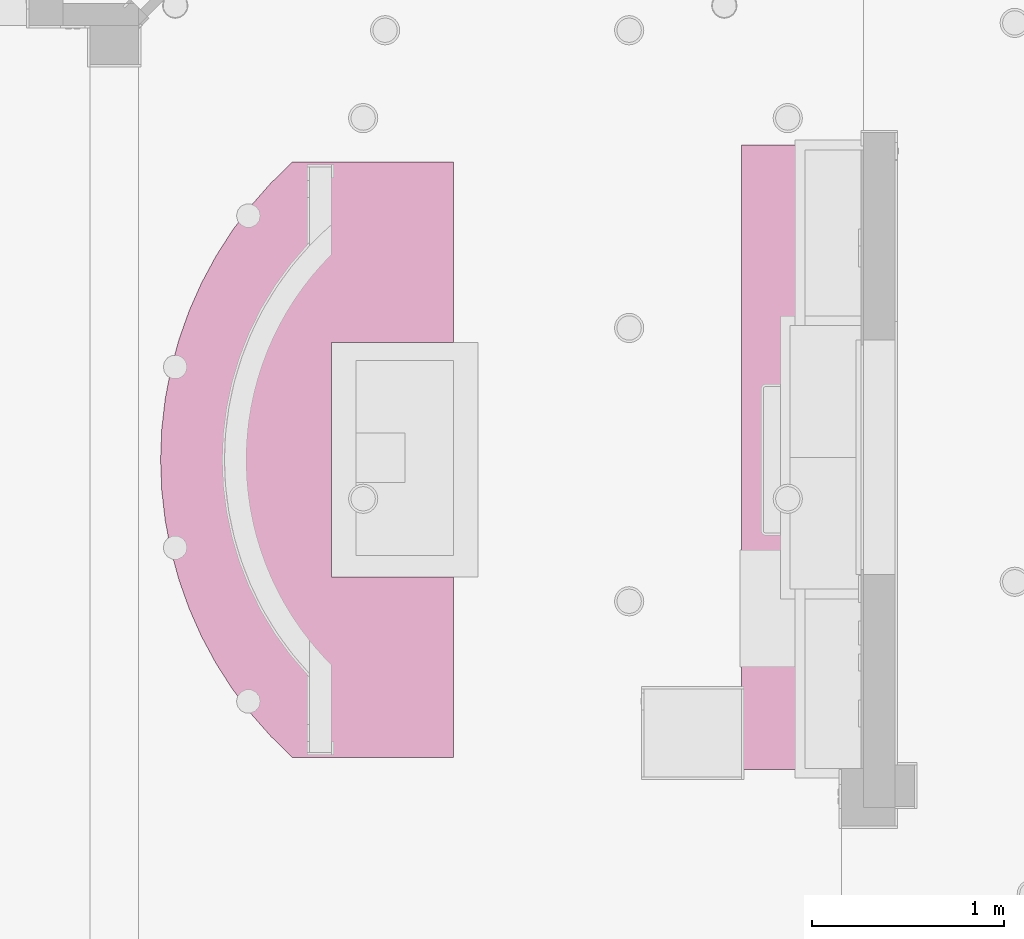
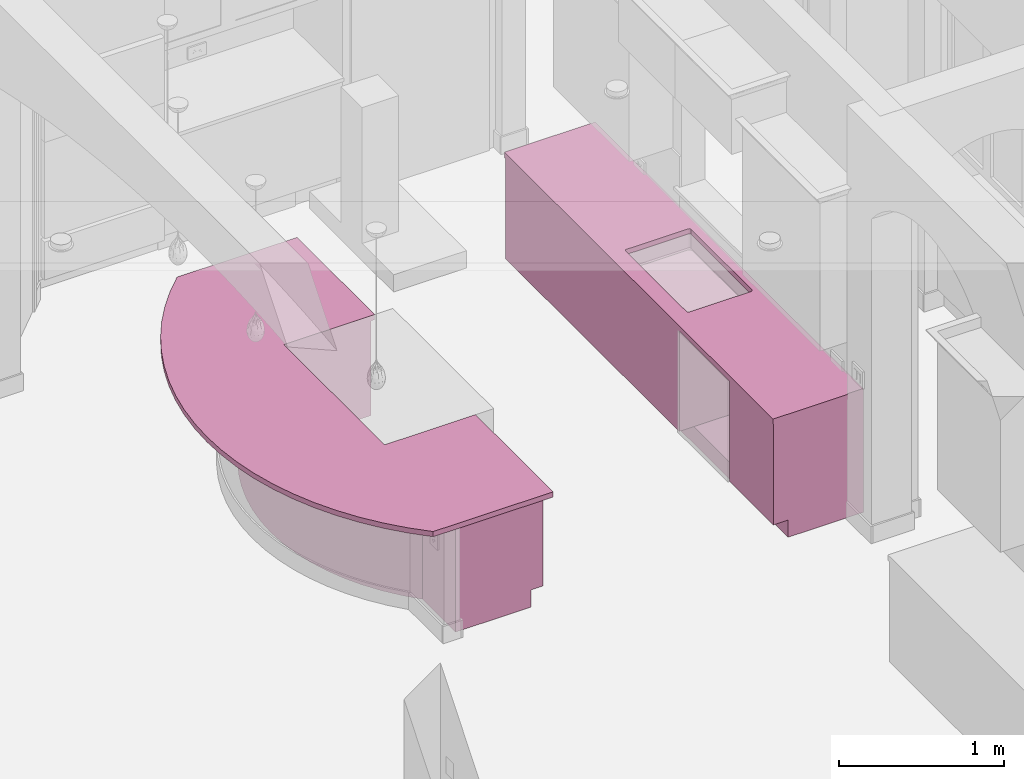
# One storey, part 57 of 81: 2 furnishings.
"""IFC2X3 building model written with IfcOpenShell, lengths in feet."""

import ifcopenshell
import ifcopenshell.guid

model = None  # the IFC model being written
_history = None  # IfcOwnerHistory: only IFC2X3 demands one
_inside = {}  # id of a spatial element -> (the spatial element, [elements in it])
_under = {}  # id of a project, library or spatial element -> (it, [spatial elements below it])
_declared = {}  # id of a project -> (the project, [libraries it declares])
_typed = {}  # id of a type object -> (the type object, [elements of that type])
_made_of = {}  # id of a material, layer set ... -> (it, [elements and type objects made of it])


def new_model(schema):
    """Start an empty IFC model of exactly this schema.

    Asked for "IFC4X3", IfcOpenShell would pick the latest addendum, in which some entities
    have other attributes; the version numbers below select the first issue.
    IFC2X3 requires an IfcOwnerHistory on every rooted entity: one is made here for all.
    """
    global model, _history
    if schema == "IFC4X3":
        model = ifcopenshell.file(schema_version=(4, 3, 0, 0))
    else:
        model = ifcopenshell.file(schema=schema)
    _inside.clear()
    _under.clear()
    _declared.clear()
    _typed.clear()
    _made_of.clear()
    _history = None
    if model.schema == "IFC2X3":
        org = make("IfcOrganization", Name="unknown")
        user = make(
            "IfcPersonAndOrganization",
            ThePerson=make("IfcPerson", FamilyName="unknown"),
            TheOrganization=org,
        )
        app = make(
            "IfcApplication",
            ApplicationDeveloper=org,
            Version="unknown",
            ApplicationFullName="unknown",
            ApplicationIdentifier="unknown",
        )
        _history = make(
            "IfcOwnerHistory",
            OwningUser=user,
            OwningApplication=app,
            ChangeAction="ADDED",
            CreationDate=0,
        )
    return model


def make(cls, **values):
    """One entity of the class cls with the attributes given. An attribute that is None is left unset."""
    return model.create_entity(
        cls, **{name: value for name, value in values.items() if value is not None}
    )


def entity(cls, *values):
    """Any entity or typed value of the class cls, its attributes in the order of the schema. None: left unset."""
    e = model.create_entity(cls)
    for i, value in enumerate(values):
        if value is not None:
            e[i] = value
    return e


def rooted(cls, **values):
    """An entity with a GlobalId (a new one), such as an element, a storey or a relation."""
    return make(cls, GlobalId=ifcopenshell.guid.new(), OwnerHistory=_history, **values)


def si_unit(unit_type, name, prefix=None):
    """IfcSIUnit, for example si_unit("LENGTHUNIT", "METRE", prefix="MILLI")."""
    return make("IfcSIUnit", UnitType=unit_type, Prefix=prefix, Name=name)


def converted_unit(unit_type, name, factor, base, dimensions=None, offset=None):
    """IfcConversionBasedUnit, such as the inch: factor (a typed value) times the base unit."""
    return make(
        "IfcConversionBasedUnit"
        if offset is None
        else "IfcConversionBasedUnitWithOffset",
        ConversionOffset=offset,
        Dimensions=None
        if dimensions is None
        else entity("IfcDimensionalExponents", *dimensions),
        UnitType=unit_type,
        Name=name,
        ConversionFactor=make(
            "IfcMeasureWithUnit", ValueComponent=factor, UnitComponent=base
        ),
    )


def derived_unit(unit_type, elements):
    """IfcDerivedUnit: a product of units, each with its exponent."""
    return make(
        "IfcDerivedUnit",
        Elements=[
            make("IfcDerivedUnitElement", Unit=unit, Exponent=power)
            for unit, power in elements
        ],
        UnitType=unit_type,
    )


def assignment(units):
    """IfcUnitAssignment: the units of a project."""
    return None if units is None else make("IfcUnitAssignment", Units=units)


def point(xyz):
    """IfcCartesianPoint."""
    return None if xyz is None else make("IfcCartesianPoint", Coordinates=xyz)


def direction(xyz):
    """IfcDirection."""
    return None if xyz is None else make("IfcDirection", DirectionRatios=xyz)


def frame(location, z_axis=None, x_axis=None):
    """IfcAxis2Placement3D, a coordinate frame: its origin and axes. An axis left out is left unset."""
    return make(
        "IfcAxis2Placement3D",
        Location=point(location),
        Axis=direction(z_axis),
        RefDirection=direction(x_axis),
    )


def origin():
    """The frame at (0, 0, 0) with its axes left unset."""
    return frame((0.0, 0.0, 0.0))


def place(relative_to, where):
    """IfcLocalPlacement: puts the frame where relative to a parent placement (None: the world)."""
    return make(
        "IfcLocalPlacement", PlacementRelTo=relative_to, RelativePlacement=where
    )


def context(
    kind, dimensions, precision=None, world=None, true_north=None, identifier=None
):
    """IfcGeometricRepresentationContext, for example the 3D "Model" context."""
    return make(
        "IfcGeometricRepresentationContext",
        ContextIdentifier=identifier,
        ContextType=kind,
        CoordinateSpaceDimension=dimensions,
        Precision=precision,
        WorldCoordinateSystem=world,
        TrueNorth=true_north,
    )


def subcontext(parent, identifier, kind, view, scale=None):
    """IfcGeometricRepresentationSubContext, for example "Body" below "Model"."""
    return make(
        "IfcGeometricRepresentationSubContext",
        ContextIdentifier=identifier,
        ContextType=kind,
        ParentContext=parent,
        TargetScale=scale,
        TargetView=view,
    )


def project(units=None, contexts=None):
    """IfcProject with its units and contexts."""
    return rooted(
        "IfcProject",
        Name="project",
        RepresentationContexts=contexts,
        UnitsInContext=assignment(units),
    )


def spatial(cls, under=None, at=None, **own):
    """A site, building, storey or space (cls), placed at a placement, below another one or the project."""
    s = rooted(cls, ObjectPlacement=at, **own)
    if under is not None:
        _under.setdefault(under.id(), (under, []))[1].append(s)
    return s


def faces_of(points, faces, orient=None, outer=None):
    """IfcFace entities. A face is a list of loops; a loop is a list of indices into points, from 0.

    orient and outer hold one flag for each loop. By default every Orientation is true, the
    first loop of a face is its IfcFaceOuterBound and the others are IfcFaceBound.
    """
    made = []
    for i, loops in enumerate(faces):
        bounds = []
        for j, loop in enumerate(loops):
            is_outer = j == 0 if outer is None else outer[i][j]
            bounds.append(
                make(
                    "IfcFaceOuterBound" if is_outer else "IfcFaceBound",
                    Bound=make("IfcPolyLoop", Polygon=[points[k] for k in loop]),
                    Orientation=True if orient is None else orient[i][j],
                )
            )
        made.append(make("IfcFace", Bounds=bounds))
    return made


def faceted_brep(points, faces, orient=None, outer=None, voids=None):
    """IfcFacetedBrep: a solid bounded by flat faces; with voids (closed shells), ...WithVoids."""
    shared = [point(p) for p in points]
    hull = make("IfcClosedShell", CfsFaces=faces_of(shared, faces, orient, outer))
    if voids is None:
        return make("IfcFacetedBrep", Outer=hull)
    return make(
        "IfcFacetedBrepWithVoids",
        Outer=hull,
        Voids=[
            make(cls, CfsFaces=faces_of(shared, fs, o, b)) for cls, fs, o, b in voids
        ],
    )


def shape(context_of_items, identifier, shape_type, items):
    """IfcShapeRepresentation: the items that make up one representation, for example the "Body"."""
    return make(
        "IfcShapeRepresentation",
        ContextOfItems=context_of_items,
        RepresentationIdentifier=identifier,
        RepresentationType=shape_type,
        Items=items,
    )


def source(mapping_origin, context_of_items, identifier, shape_type, items):
    """IfcRepresentationMap: a shape defined once, which mapped items show again and again."""
    return make(
        "IfcRepresentationMap",
        MappingOrigin=mapping_origin,
        MappedRepresentation=shape(context_of_items, identifier, shape_type, items),
    )


def transform(
    local_origin,
    x_axis=None,
    y_axis=None,
    z_axis=None,
    scale=None,
    scale2=None,
    scale3=None,
    uniform=True,
):
    """IfcCartesianTransformationOperator3D, or its non-uniform kind. x_axis, y_axis, z_axis: its Axis1, 2, 3."""
    if uniform:
        return make(
            "IfcCartesianTransformationOperator3D",
            Axis1=direction(x_axis),
            Axis2=direction(y_axis),
            LocalOrigin=point(local_origin),
            Scale=scale,
            Axis3=direction(z_axis),
        )
    return make(
        "IfcCartesianTransformationOperator3DnonUniform",
        Axis1=direction(x_axis),
        Axis2=direction(y_axis),
        LocalOrigin=point(local_origin),
        Scale=scale,
        Axis3=direction(z_axis),
        Scale2=scale2,
        Scale3=scale3,
    )


def mapped(mapping_source, mapping_target):
    """IfcMappedItem: shows the shape of a source again, moved by a transform."""
    return make(
        "IfcMappedItem", MappingSource=mapping_source, MappingTarget=mapping_target
    )


def material(Name=None, Category=None):
    """IfcMaterial."""
    return make("IfcMaterial", Name=Name, Category=Category)


def made_of(thing, what):
    """Note that an element or type object is made of a material, layer set ...; save() writes the relation."""
    if what is not None:
        _made_of.setdefault(what.id(), (what, []))[1].append(thing)
    return thing


def type_object(cls, material=None, **own):
    """A type object (cls), such as IfcWallType, which elements share."""
    return made_of(rooted(cls, **own), material)


def type_shapes(of_type, sources):
    """Give a type object the sources (RepresentationMaps) that its elements show as mapped items."""
    of_type.RepresentationMaps = sources


def element(
    cls,
    number,
    at=None,
    inside=None,
    cuts=None,
    type_object=None,
    material=None,
    context=None,
    identifier="Body",
    shape_type=None,
    held_by="IfcProductDefinitionShape",
    body=None,
    shapes=None,
    **own,
):
    """One element of the class cls, such as IfcWall. Its Tag is "e" and its number.

    at: its placement. inside: the storey or other place that contains it. cuts: it is an
    opening in that element (IfcRelVoidsElement). A single representation is given by context,
    identifier, shape_type and body (its items); several are given by shapes. held_by: the class
    of the entity that holds the representations. save() writes the other relations.
    """
    e = rooted(cls, Tag="e%d" % number, ObjectPlacement=at, **own)
    if body is not None:
        shapes = [shape(context, identifier, shape_type, body)]
    if shapes is not None:
        e.Representation = make(held_by, Representations=shapes)
    if inside is not None:
        _inside.setdefault(inside.id(), (inside, []))[1].append(e)
    if cuts is not None:
        rooted(
            "IfcRelVoidsElement", RelatingBuildingElement=cuts, RelatedOpeningElement=e
        )
    if type_object is not None:
        _typed.setdefault(type_object.id(), (type_object, []))[1].append(e)
    return made_of(e, material)


def aggregate(whole, parts):
    """IfcRelAggregates: a whole, such as a stair, and the parts it consists of."""
    return rooted("IfcRelAggregates", RelatingObject=whole, RelatedObjects=parts)


def save(model, path):
    """Write the relations noted so far, then the file.

    IfcRelAggregates (storeys below a building ...), IfcRelContainedInSpatialStructure (elements
    in a storey), IfcRelDefinesByType, IfcRelAssociatesMaterial and IfcRelDeclares: one each for
    every whole, place, type object, material and project.
    """
    for whole, parts in _under.values():
        aggregate(whole, parts)
    for where, things in _inside.values():
        rooted(
            "IfcRelContainedInSpatialStructure",
            RelatedElements=things,
            RelatingStructure=where,
        )
    for kind, things in _typed.values():
        rooted("IfcRelDefinesByType", RelatedObjects=things, RelatingType=kind)
    for what, things in _made_of.values():
        rooted("IfcRelAssociatesMaterial", RelatedObjects=things, RelatingMaterial=what)
    for by, libraries in _declared.values():
        rooted("IfcRelDeclares", RelatingContext=by, RelatedDefinitions=libraries)
    model.write(path)


model = new_model("IFC2X3")

# Units and contexts
model_context = context("Model", 3, precision=0.0001, world=origin(), true_north=direction((6.12303176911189e-17, 1.0)))
body_context = subcontext(model_context, "Body", "Model", "MODEL_VIEW")
ifc_project = project(units=[converted_unit("LENGTHUNIT", "FOOT", entity("IfcRatioMeasure", 0.3048), si_unit("LENGTHUNIT", "METRE"), dimensions=[1, 0, 0, 0, 0, 0, 0]), converted_unit("AREAUNIT", "SQUARE FOOT", entity("IfcRatioMeasure", 0.09290304), si_unit("AREAUNIT", "SQUARE_METRE"), dimensions=[2, 0, 0, 0, 0, 0, 0]), converted_unit("VOLUMEUNIT", "CUBIC FOOT", entity("IfcRatioMeasure", 0.028316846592), si_unit("VOLUMEUNIT", "CUBIC_METRE"), dimensions=[3, 0, 0, 0, 0, 0, 0]), converted_unit("PLANEANGLEUNIT", "DEGREE", entity("IfcRatioMeasure", 0.0174532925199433), si_unit("PLANEANGLEUNIT", "RADIAN"), dimensions=[0, 0, 0, 0, 0, 0, 0]), si_unit("MASSUNIT", "GRAM", prefix="KILO"), derived_unit("MASSDENSITYUNIT", [(si_unit("MASSUNIT", "GRAM", prefix="KILO"), 1), (si_unit("LENGTHUNIT", "METRE"), -3)]), derived_unit("MOMENTOFINERTIAUNIT", [(si_unit("LENGTHUNIT", "METRE"), 4)]), si_unit("TIMEUNIT", "SECOND"), si_unit("FREQUENCYUNIT", "HERTZ"), si_unit("THERMODYNAMICTEMPERATUREUNIT", "DEGREE_CELSIUS"), derived_unit("THERMALTRANSMITTANCEUNIT", [(si_unit("MASSUNIT", "GRAM", prefix="KILO"), 1), (si_unit("THERMODYNAMICTEMPERATUREUNIT", "KELVIN"), -1), (si_unit("TIMEUNIT", "SECOND"), -3)]), derived_unit("VOLUMETRICFLOWRATEUNIT", [(si_unit("LENGTHUNIT", "METRE"), 3), (si_unit("TIMEUNIT", "SECOND"), -1)]), si_unit("ELECTRICCURRENTUNIT", "AMPERE"), si_unit("ELECTRICVOLTAGEUNIT", "VOLT"), si_unit("POWERUNIT", "WATT"), si_unit("FORCEUNIT", "NEWTON"), si_unit("ILLUMINANCEUNIT", "LUX"), si_unit("LUMINOUSFLUXUNIT", "LUMEN"), si_unit("LUMINOUSINTENSITYUNIT", "CANDELA"), derived_unit("USERDEFINED", [(si_unit("MASSUNIT", "GRAM", prefix="KILO"), -1), (si_unit("LENGTHUNIT", "METRE"), -2), (si_unit("TIMEUNIT", "SECOND"), 3), (si_unit("LUMINOUSFLUXUNIT", "LUMEN"), 1)]), derived_unit("LINEARVELOCITYUNIT", [(si_unit("LENGTHUNIT", "METRE"), 1), (si_unit("TIMEUNIT", "SECOND"), -1)]), si_unit("PRESSUREUNIT", "PASCAL"), derived_unit("USERDEFINED", [(si_unit("LENGTHUNIT", "METRE"), -2), (si_unit("MASSUNIT", "GRAM", prefix="KILO"), 1), (si_unit("TIMEUNIT", "SECOND"), -2)]), derived_unit("LINEARFORCEUNIT", [(si_unit("MASSUNIT", "GRAM", prefix="KILO"), 1), (si_unit("LENGTHUNIT", "METRE"), 1), (si_unit("TIMEUNIT", "SECOND"), -2), (si_unit("LENGTHUNIT", "METRE"), -1)]), derived_unit("PLANARFORCEUNIT", [(si_unit("MASSUNIT", "GRAM", prefix="KILO"), 1), (si_unit("LENGTHUNIT", "METRE"), 1), (si_unit("TIMEUNIT", "SECOND"), -2), (si_unit("LENGTHUNIT", "METRE"), -2)])], contexts=[model_context])

# Site, building, storey
site_placement = place(None, origin())
site = spatial("IfcSite", under=ifc_project, at=site_placement, Name="Default", CompositionType="ELEMENT")
building_placement = place(site_placement, origin())
building = spatial("IfcBuilding", under=site, at=building_placement, CompositionType="ELEMENT")
storey_placement = place(building_placement, origin())
storey = spatial("IfcBuildingStorey", under=building, at=storey_placement, Name="First floor", CompositionType="ELEMENT", Elevation=0.0)

# Furnishings
ifc_material = material(Name="Default New Material")
furniture_type_1 = type_object("IfcFurnitureType", Name="Casework 5:Casework 3", material=ifc_material)
shared_shape_1 = source(origin(), body_context, "Body", "Brep", [
    faceted_brep([(2.25557677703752, 0.0052338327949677, 2.83333333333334), (5.00557677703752, 0.0052338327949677, 2.83333333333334), (5.00557677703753, 3.0885671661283, 2.83333333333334), (2.9222434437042, 3.0885671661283, 2.83333333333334), (2.9222434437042, 7.08856716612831, 2.83333333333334), (5.00557677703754, 7.08856716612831, 2.83333333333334), (5.00557677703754, 10.1719004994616, 2.83333333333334), (2.25557677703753, 10.1719004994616, 2.83333333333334), (1.88400552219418, 9.80785634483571, 2.83333333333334), (1.54105929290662, 9.4167281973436, 2.83333333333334), (1.22870625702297, 9.00076074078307, 2.83333333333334), (0.948739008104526, 8.56234121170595, 2.83333333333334), (0.702764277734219, 8.10398569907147, 2.83333333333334), (0.492193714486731, 7.62832470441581, 2.83333333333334), (0.318235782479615, 7.13808804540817, 2.83333333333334), (0.181888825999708, 6.63608918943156, 2.83333333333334), (0.0839353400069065, 6.12520910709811, 2.83333333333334), (0.0249374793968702, 5.60837973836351, 2.83333333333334), (0.00523383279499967, 5.08856716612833, 2.83333333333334), (0.0249374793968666, 4.56875459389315, 2.83333333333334), (0.0839353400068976, 4.05192522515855, 2.83333333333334), (0.181888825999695, 3.5410451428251, 2.83333333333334), (0.318235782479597, 3.03904628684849, 2.83333333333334), (0.49219371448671, 2.54880962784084, 2.83333333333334), (0.702764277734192, 2.07314863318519, 2.83333333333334), (0.948739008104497, 1.6147931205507, 2.83333333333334), (1.22870625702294, 1.17637359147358, 2.83333333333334), (1.54105929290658, 0.760406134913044, 2.83333333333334), (1.88400552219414, 0.369277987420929, 2.83333333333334), (2.25557677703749, 10.1719004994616, 2.70833333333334), (5.00557677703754, 10.1719004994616, 2.70833333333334), (5.00557677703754, 7.08856716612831, 2.70833333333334), (2.9222434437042, 7.08856716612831, 2.70833333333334), (2.9222434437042, 3.0885671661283, 2.70833333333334), (5.00557677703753, 3.0885671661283, 2.70833333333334), (5.00557677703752, 0.0052338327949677, 2.70833333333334), (2.25557677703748, 0.00523383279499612, 2.70833333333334), (1.88400552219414, 0.369277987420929, 2.70833333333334), (1.54105929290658, 0.760406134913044, 2.70833333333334), (1.22870625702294, 1.17637359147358, 2.70833333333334), (0.948739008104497, 1.6147931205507, 2.70833333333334), (0.702764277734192, 2.07314863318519, 2.70833333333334), (0.49219371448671, 2.54880962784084, 2.70833333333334), (0.318235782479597, 3.03904628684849, 2.70833333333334), (0.181888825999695, 3.5410451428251, 2.70833333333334), (0.0839353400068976, 4.05192522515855, 2.70833333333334), (0.0249374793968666, 4.56875459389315, 2.70833333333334), (0.00523383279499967, 5.08856716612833, 2.70833333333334), (0.0249374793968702, 5.60837973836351, 2.70833333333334), (0.0839353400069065, 6.12520910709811, 2.70833333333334), (0.181888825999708, 6.63608918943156, 2.70833333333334), (0.318235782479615, 7.13808804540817, 2.70833333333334), (0.492193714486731, 7.62832470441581, 2.70833333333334), (0.702764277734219, 8.10398569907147, 2.70833333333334), (0.948739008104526, 8.56234121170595, 2.70833333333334), (1.22870625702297, 9.00076074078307, 2.70833333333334), (1.54105929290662, 9.4167281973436, 2.70833333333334), (1.88400552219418, 9.80785634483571, 2.70833333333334)], [[[0, 1, 2, 3, 4, 5, 6, 7, 8, 9, 10, 11, 12, 13, 14, 15, 16, 17, 18, 19, 20, 21, 22, 23, 24, 25, 26, 27, 28]], [[29, 30, 31, 32, 33, 34, 35, 36, 37, 38, 39, 40, 41, 42, 43, 44, 45, 46, 47, 48, 49, 50, 51, 52, 53, 54, 55, 56, 57]], [[2, 1, 35, 34]], [[6, 5, 31, 30]], [[3, 2, 34, 33]], [[4, 3, 33, 32]], [[5, 4, 32, 31]], [[7, 6, 30, 29]], [[10, 55, 54, 11]], [[8, 57, 56, 9]], [[55, 10, 9, 56]], [[11, 54, 53, 12]], [[15, 50, 49, 16]], [[16, 49, 48, 17]], [[13, 52, 51, 14]], [[14, 51, 50, 15]], [[52, 13, 12, 53]], [[17, 48, 47, 18]], [[57, 8, 7, 29]], [[21, 44, 43, 22]], [[19, 46, 45, 20]], [[44, 21, 20, 45]], [[22, 43, 42, 23]], [[26, 39, 38, 27]], [[27, 38, 37, 28]], [[24, 41, 40, 25]], [[25, 40, 39, 26]], [[41, 24, 23, 42]], [[28, 37, 36, 0]], [[46, 19, 18, 47]], [[1, 0, 36, 35]]]),
    faceted_brep([(4.9222434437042, 0.2760671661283, 0.41666666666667), (4.65141011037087, 0.2760671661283, 0.41666666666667), (4.65141011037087, 3.0885671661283, 0.41666666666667), (4.9222434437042, 3.0885671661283, 0.41666666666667), (4.9222434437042, 7.08856716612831, 0.41666666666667), (4.65141011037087, 7.08856716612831, 0.41666666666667), (4.65141011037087, 9.90106716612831, 0.41666666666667), (4.9222434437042, 9.90106716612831, 0.41666666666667), (4.65141011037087, 0.2760671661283, 0.0), (4.65141011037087, 3.0885671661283, 0.0), (4.65141011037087, 7.08856716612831, 0.0), (4.65141011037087, 9.90106716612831, 0.0), (3.00557677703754, 3.03648383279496, 0.468750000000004), (3.00557677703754, 3.03648383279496, 1.03993055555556), (3.00557677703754, 0.390650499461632, 1.03993055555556), (3.00557677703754, 0.390650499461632, 0.468750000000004), (3.00557677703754, 9.78648383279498, 0.468750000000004), (3.00557677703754, 9.78648383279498, 1.03993055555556), (3.00557677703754, 7.14065049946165, 1.03993055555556), (3.00557677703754, 7.14065049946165, 0.468750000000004), (3.00557677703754, 3.03648383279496, 1.09201388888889), (3.00557677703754, 3.03648383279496, 1.68923611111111), (3.00557677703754, 0.390650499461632, 1.68923611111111), (3.00557677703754, 0.390650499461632, 1.09201388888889), (3.00557677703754, 9.78648383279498, 1.09201388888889), (3.00557677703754, 9.78648383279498, 1.68923611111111), (3.00557677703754, 7.14065049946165, 1.68923611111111), (3.00557677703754, 7.14065049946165, 1.09201388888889), (3.00557677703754, 3.03648383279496, 1.74131944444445), (3.00557677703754, 3.03648383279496, 2.33854166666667), (3.00557677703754, 0.390650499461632, 2.33854166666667), (3.00557677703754, 0.390650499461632, 1.74131944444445), (3.00557677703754, 9.78648383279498, 1.74131944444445), (3.00557677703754, 9.78648383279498, 2.33854166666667), (3.00557677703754, 7.14065049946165, 2.33854166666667), (3.00557677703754, 7.14065049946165, 1.74131944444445), (4.9222434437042, 0.2760671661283, 2.70833333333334), (4.9222434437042, 3.0885671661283, 2.70833333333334), (2.9222434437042, 3.0885671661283, 2.70833333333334), (2.9222434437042, 7.08856716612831, 2.70833333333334), (4.9222434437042, 7.08856716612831, 2.70833333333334), (4.9222434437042, 9.90106716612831, 2.70833333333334), (2.92224344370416, 9.90106716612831, 2.70833333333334), (2.92224344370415, 8.58856716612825, 2.70833333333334), (2.63027916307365, 8.27032162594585, 2.70833333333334), (2.36718661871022, 7.92782246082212, 2.70833333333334), (2.1349712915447, 7.5636804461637, 2.70833333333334), (1.93540329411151, 7.18067133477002, 2.70833333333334), (1.77000387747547, 6.78171469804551, 2.70833333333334), (1.64003383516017, 6.36985167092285, 2.70833333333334), (1.54648389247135, 5.94822177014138, 2.70833333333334), (1.49006715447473, 5.52003896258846, 2.70833333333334), (1.4712136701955, 5.08856716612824, 2.70833333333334), (1.49006715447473, 4.65709536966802, 2.70833333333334), (1.54648389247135, 4.2289125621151, 2.70833333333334), (1.64003383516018, 3.80728266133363, 2.70833333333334), (1.77000387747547, 3.39541963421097, 2.70833333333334), (1.93540329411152, 2.99646299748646, 2.70833333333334), (2.13497129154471, 2.61345388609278, 2.70833333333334), (2.36718661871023, 2.24931187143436, 2.70833333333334), (2.63027916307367, 1.90681270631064, 2.70833333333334), (2.92224344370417, 1.58856716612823, 2.70833333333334), (2.92224344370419, 0.2760671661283, 2.70833333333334), (2.9222434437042, 7.08856716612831, 0.0), (2.9222434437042, 3.0885671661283, 0.0), (2.92224344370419, 0.2760671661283, 0.0), (2.92224344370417, 1.58856716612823, 0.0), (2.63027916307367, 1.90681270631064, 0.0), (2.36718661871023, 2.24931187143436, 0.0), (2.13497129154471, 2.61345388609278, 0.0), (1.93540329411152, 2.99646299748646, 0.0), (1.77000387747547, 3.39541963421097, 0.0), (1.64003383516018, 3.80728266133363, 0.0), (1.54648389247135, 4.2289125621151, 0.0), (1.49006715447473, 4.65709536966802, 0.0), (1.4712136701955, 5.08856716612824, 0.0), (1.49006715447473, 5.52003896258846, 0.0), (1.54648389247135, 5.94822177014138, 0.0), (1.64003383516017, 6.36985167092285, 0.0), (1.77000387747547, 6.78171469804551, 0.0), (1.93540329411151, 7.18067133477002, 0.0), (2.1349712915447, 7.5636804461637, 0.0), (2.36718661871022, 7.92782246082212, 0.0), (2.63027916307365, 8.27032162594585, 0.0), (2.92224344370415, 8.58856716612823, 0.0), (2.92224344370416, 9.90106716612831, 0.0), (4.9222434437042, 0.390650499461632, 2.33854166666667), (4.9222434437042, 0.390650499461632, 1.74131944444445), (4.9222434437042, 0.390650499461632, 1.68923611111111), (4.9222434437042, 0.390650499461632, 1.09201388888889), (4.9222434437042, 0.390650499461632, 1.03993055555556), (4.9222434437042, 0.390650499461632, 0.468750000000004), (4.9222434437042, 3.03648383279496, 1.68923611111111), (4.9222434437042, 3.03648383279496, 0.468750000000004), (4.9222434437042, 3.03648383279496, 1.03993055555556), (4.9222434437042, 3.03648383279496, 1.09201388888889), (4.9222434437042, 3.03648383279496, 1.74131944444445), (4.9222434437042, 3.03648383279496, 2.33854166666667), (4.9222434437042, 7.14065049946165, 2.33854166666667), (4.9222434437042, 9.78648383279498, 2.33854166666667), (4.9222434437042, 7.14065049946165, 1.74131944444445), (4.9222434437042, 7.14065049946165, 1.68923611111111), (4.9222434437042, 7.14065049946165, 1.09201388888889), (4.9222434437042, 7.14065049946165, 1.03993055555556), (4.9222434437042, 7.14065049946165, 0.468750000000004), (4.9222434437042, 9.78648383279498, 0.468750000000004), (4.9222434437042, 9.78648383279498, 1.68923611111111), (4.9222434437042, 9.78648383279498, 1.03993055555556), (4.9222434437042, 9.78648383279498, 1.09201388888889), (4.9222434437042, 9.78648383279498, 1.74131944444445)], [[[0, 1, 2, 3]], [[4, 5, 6, 7]], [[1, 8, 9, 2]], [[10, 11, 6, 5]], [[12, 13, 14, 15]], [[16, 17, 18, 19]], [[20, 21, 22, 23]], [[24, 25, 26, 27]], [[28, 29, 30, 31]], [[32, 33, 34, 35]], [[36, 37, 38, 39, 40, 41, 42, 43, 44, 45, 46, 47, 48, 49, 50, 51, 52, 53, 54, 55, 56, 57, 58, 59, 60, 61, 62]], [[11, 10, 63, 64, 9, 8, 65, 66, 67, 68, 69, 70, 71, 72, 73, 74, 75, 76, 77, 78, 79, 80, 81, 82, 83, 84, 85]], [[36, 86, 37]], [[86, 36, 87]], [[88, 87, 36]], [[36, 0, 88]], [[89, 88, 0]], [[90, 89, 0]], [[0, 91, 90]], [[91, 0, 3]], [[37, 92, 3]], [[3, 93, 91]], [[93, 3, 94]], [[95, 94, 3]], [[95, 3, 92]], [[96, 92, 37]], [[92, 96, 88]], [[94, 95, 89]], [[89, 90, 94]], [[87, 88, 96]], [[37, 97, 96]], [[97, 37, 86]], [[36, 86, 37]], [[86, 36, 87]], [[88, 87, 36]], [[36, 0, 88]], [[89, 88, 0]], [[90, 89, 0]], [[0, 91, 90]], [[91, 0, 3]], [[37, 92, 3]], [[3, 93, 91]], [[93, 3, 94]], [[95, 94, 3]], [[95, 3, 92]], [[96, 92, 37]], [[92, 96, 88]], [[94, 95, 89]], [[89, 90, 94]], [[87, 88, 96]], [[37, 97, 96]], [[97, 37, 86]], [[40, 98, 99]], [[98, 40, 100]], [[101, 100, 40]], [[40, 4, 101]], [[99, 41, 40]], [[102, 101, 4]], [[103, 102, 4]], [[4, 104, 103]], [[104, 4, 105]], [[7, 105, 4]], [[41, 106, 7]], [[105, 7, 107]], [[108, 107, 7]], [[108, 7, 106]], [[100, 101, 106]], [[109, 106, 41]], [[106, 109, 100]], [[102, 103, 108]], [[107, 108, 103]], [[41, 99, 109]], [[38, 37, 3, 2, 9, 64]], [[39, 38, 64, 63]], [[40, 39, 63, 10, 5, 4]], [[42, 41, 7, 6, 11, 85]], [[43, 42, 85, 84]], [[62, 61, 66, 65]], [[45, 44, 83, 82]], [[44, 43, 84, 83]], [[46, 45, 82, 81]], [[78, 77, 50, 49]], [[48, 47, 80, 79]], [[49, 48, 79, 78]], [[81, 80, 47, 46]], [[51, 50, 77, 76]], [[52, 51, 76, 75]], [[55, 54, 73, 72]], [[54, 53, 74, 73]], [[56, 55, 72, 71]], [[68, 67, 60, 59]], [[58, 57, 70, 69]], [[59, 58, 69, 68]], [[71, 70, 57, 56]], [[61, 60, 67, 66]], [[53, 52, 75, 74]], [[36, 62, 65, 8, 1, 0]], [[107, 17, 16, 105]], [[106, 25, 24, 108]], [[99, 33, 32, 109]], [[105, 16, 19, 104]], [[93, 12, 15, 91]], [[104, 19, 18, 103]], [[102, 27, 26, 101]], [[100, 35, 34, 98]], [[103, 18, 17, 107]], [[90, 14, 13, 94]], [[108, 24, 27, 102]], [[95, 20, 23, 89]], [[101, 26, 25, 106]], [[88, 22, 21, 92]], [[98, 34, 33, 99]], [[86, 30, 29, 97]], [[109, 32, 35, 100]], [[96, 28, 31, 87]], [[94, 13, 12, 93]], [[92, 21, 20, 95]], [[97, 29, 28, 96]], [[91, 15, 14, 90]], [[89, 23, 22, 88]], [[87, 31, 30, 86]]]),
])
type_shapes(furniture_type_1, [shared_shape_1])
furnishing_1_placement = place(storey_placement, frame((0.911089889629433, 16.5364328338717, 10.6666666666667)))
element("IfcFurnishingElement", 1, at=furnishing_1_placement, inside=storey, type_object=furniture_type_1, material=ifc_material, Name="Casework 5:Casework 3", ObjectType="Casework 5:Casework 3", context=body_context, shape_type="MappedRepresentation", body=[
    mapped(shared_shape_1, transform((0.0, 0.0, 0.0), scale=1.0)),
])
furniture_type_2 = type_object("IfcFurnitureType", Name="Casework 6:Casework 6", material=ifc_material)
shared_shape_2 = source(origin(), body_context, "Body", "Brep", [
    faceted_brep([(2.08333333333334, 10.6666666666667, 3.0), (1.86941772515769, 6.52083333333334, 3.0), (1.87358024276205, 6.51078412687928, 3.0), (1.86279611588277, 6.52946278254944, 3.0), (1.875, 6.5, 3.0), (2.08333333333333, 0.0208333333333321, 3.0), (1.85416666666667, 6.53608439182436, 3.0), (1.84411746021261, 6.54024690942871, 3.0), (1.83333333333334, 6.54166666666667, 3.0), (0.416666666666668, 6.54166666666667, 3.0), (0.0, 10.6666666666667, 3.0), (0.405882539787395, 6.54024690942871, 3.0), (0.395833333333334, 6.53608439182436, 3.0), (0.387203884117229, 6.52946278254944, 3.0), (0.380582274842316, 6.52083333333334, 3.0), (0.376419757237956, 6.51078412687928, 3.0), (0.375000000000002, 6.5, 3.0), (0.0, 0.0, 3.0), (0.375000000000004, 4.08333333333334, 3.0), (0.376419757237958, 4.07254920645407, 3.0), (0.380582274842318, 4.06250000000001, 3.0), (0.387203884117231, 4.0538705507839, 3.0), (0.395833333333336, 4.04724894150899, 3.0), (0.405882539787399, 4.04308642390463, 3.0), (0.41666666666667, 4.04166666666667, 3.0), (1.70833333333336, 0.0208333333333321, 3.0), (1.70833333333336, 0.0, 3.0), (1.83333333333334, 4.04166666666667, 3.0), (1.875, 4.08333333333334, 3.0), (1.87358024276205, 4.07254920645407, 3.0), (1.86941772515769, 4.06250000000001, 3.0), (1.86279611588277, 4.0538705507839, 3.0), (1.85416666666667, 4.04724894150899, 3.0), (1.84411746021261, 4.04308642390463, 3.0), (0.0, 10.6666666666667, 2.875), (0.380582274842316, 6.52083333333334, 2.875), (0.376419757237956, 6.51078412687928, 2.875), (0.387203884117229, 6.52946278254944, 2.875), (0.375000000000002, 6.5, 2.875), (0.0, 0.0, 2.875), (0.395833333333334, 6.53608439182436, 2.875), (0.405882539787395, 6.54024690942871, 2.875), (0.416666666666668, 6.54166666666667, 2.875), (2.08333333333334, 10.6666666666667, 2.875), (1.83333333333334, 6.54166666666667, 2.875), (1.84411746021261, 6.54024690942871, 2.875), (1.85416666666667, 6.53608439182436, 2.875), (1.86279611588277, 6.52946278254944, 2.875), (1.86941772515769, 6.52083333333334, 2.875), (1.87358024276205, 6.51078412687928, 2.875), (1.875, 6.5, 2.875), (2.08333333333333, 0.0208333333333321, 2.875), (1.875, 4.08333333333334, 2.875), (1.87358024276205, 4.07254920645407, 2.875), (1.86941772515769, 4.06250000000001, 2.875), (1.86279611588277, 4.0538705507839, 2.875), (1.85416666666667, 4.04724894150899, 2.875), (1.84411746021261, 4.04308642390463, 2.875), (1.83333333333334, 4.04166666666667, 2.875), (1.70833333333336, 0.0208333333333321, 2.875), (0.41666666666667, 4.04166666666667, 2.875), (1.70833333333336, 0.0, 2.875), (0.405882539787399, 4.04308642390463, 2.875), (0.375000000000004, 4.08333333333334, 2.875), (0.376419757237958, 4.07254920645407, 2.875), (0.380582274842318, 4.06250000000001, 2.875), (0.387203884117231, 4.0538705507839, 2.875), (0.395833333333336, 4.04724894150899, 2.875)], [[[0, 1, 2]], [[1, 0, 3]], [[2, 4, 0]], [[0, 4, 5]], [[6, 3, 0]], [[7, 6, 0]], [[8, 7, 0]], [[0, 9, 8]], [[9, 0, 10]], [[11, 9, 10]], [[11, 10, 12]], [[13, 12, 10]], [[10, 14, 13]], [[14, 10, 15]], [[16, 15, 10]], [[10, 17, 16]], [[18, 16, 17]], [[19, 18, 17]], [[17, 20, 19]], [[21, 20, 17]], [[21, 17, 22]], [[23, 22, 17]], [[17, 24, 23]], [[17, 25, 24]], [[25, 17, 26]], [[27, 25, 5]], [[25, 27, 24]], [[28, 5, 4]], [[28, 29, 5]], [[30, 5, 29]], [[5, 30, 31]], [[32, 5, 31]], [[33, 5, 32]], [[5, 33, 27]], [[34, 35, 36]], [[35, 34, 37]], [[36, 38, 34]], [[34, 38, 39]], [[40, 37, 34]], [[41, 40, 34]], [[42, 41, 34]], [[42, 34, 43]], [[44, 42, 43]], [[45, 44, 43]], [[45, 43, 46]], [[47, 46, 43]], [[43, 48, 47]], [[48, 43, 49]], [[50, 49, 43]], [[43, 51, 50]], [[52, 50, 51]], [[53, 52, 51]], [[51, 54, 53]], [[55, 54, 51]], [[55, 51, 56]], [[57, 56, 51]], [[51, 58, 57]], [[59, 58, 51]], [[60, 59, 39]], [[58, 59, 60]], [[39, 59, 61]], [[39, 62, 60]], [[63, 39, 38]], [[63, 64, 39]], [[65, 39, 64]], [[39, 65, 66]], [[67, 39, 66]], [[62, 39, 67]], [[10, 0, 43, 34]], [[17, 10, 34, 39]], [[26, 17, 39, 61]], [[0, 5, 51, 43]], [[23, 24, 60, 62]], [[22, 23, 62, 67]], [[66, 21, 22, 67]], [[19, 20, 65, 64]], [[18, 19, 64, 63]], [[65, 20, 21, 66]], [[16, 18, 63, 38]], [[15, 16, 38, 36]], [[14, 15, 36, 35]], [[37, 13, 14, 35]], [[11, 12, 40, 41]], [[9, 11, 41, 42]], [[40, 12, 13, 37]], [[8, 9, 42, 44]], [[7, 8, 44, 45]], [[6, 7, 45, 46]], [[47, 3, 6, 46]], [[2, 1, 48, 49]], [[4, 2, 49, 50]], [[48, 1, 3, 47]], [[28, 4, 50, 52]], [[29, 28, 52, 53]], [[30, 29, 53, 54]], [[55, 31, 30, 54]], [[33, 32, 56, 57]], [[27, 33, 57, 58]], [[56, 32, 31, 55]], [[24, 27, 58, 60]], [[25, 26, 61, 59]], [[5, 25, 59, 51]]]),
    faceted_brep([(0.0208333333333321, 0.0208333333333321, 2.875), (0.0208333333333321, 1.75520833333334, 2.875), (0.0208333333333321, 1.75520833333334, 0.416666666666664), (0.0208333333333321, 0.0208333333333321, 0.416666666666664), (0.0208333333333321, 3.75520833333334, 2.875), (0.0208333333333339, 10.6458333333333, 2.875), (0.0208333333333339, 10.6458333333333, 0.416666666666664), (0.0208333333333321, 3.75520833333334, 0.416666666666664), (0.354166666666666, 1.75520833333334, 0.416666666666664), (0.354166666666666, 0.0208333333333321, 0.416666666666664), (0.354166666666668, 10.6458333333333, 0.416666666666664), (0.354166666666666, 3.75520833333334, 0.416666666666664), (2.08333333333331, 0.0208333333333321, 2.875), (2.02083333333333, 1.75520833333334, 2.875), (2.02083333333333, 3.75520833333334, 2.875), (2.08333333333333, 10.6458333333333, 2.875), (1.91666666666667, 6.5, 2.875), (1.91382715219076, 6.52156825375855, 2.875), (1.90550211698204, 6.54166666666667, 2.875), (1.89225889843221, 6.55892556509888, 2.875), (1.875, 6.57216878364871, 2.875), (1.85490158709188, 6.58049381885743, 2.875), (1.83333333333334, 6.58333333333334, 2.875), (0.416666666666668, 6.58333333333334, 2.875), (0.395098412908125, 6.58049381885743, 2.875), (0.375000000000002, 6.57216878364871, 2.875), (0.35774110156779, 6.55892556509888, 2.875), (0.344497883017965, 6.54166666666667, 2.875), (0.336172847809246, 6.52156825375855, 2.875), (0.333333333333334, 6.5, 2.875), (0.41666666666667, 4.0, 2.875), (0.395098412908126, 4.00283951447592, 2.875), (0.375000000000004, 4.01116454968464, 2.875), (0.357741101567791, 4.02440776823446, 2.875), (0.344497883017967, 4.04166666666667, 2.875), (0.336172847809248, 4.06176507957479, 2.875), (0.333333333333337, 4.08333333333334, 2.875), (1.91666666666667, 4.08333333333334, 2.875), (1.91382715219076, 4.06176507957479, 2.875), (1.90550211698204, 4.04166666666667, 2.875), (1.89225889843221, 4.02440776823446, 2.875), (1.875, 4.01116454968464, 2.875), (1.85490158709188, 4.00283951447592, 2.875), (1.83333333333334, 4.0, 2.875), (0.354166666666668, 10.6458333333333, 0.0), (2.08333333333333, 10.6458333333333, 0.0), (2.08333333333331, 0.0208333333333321, 0.0), (0.354166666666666, 0.0208333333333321, 0.0), (2.02083333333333, 3.75520833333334, 0.416666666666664), (2.02083333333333, 1.75520833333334, 0.416666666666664), (0.336172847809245, 6.52156825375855, 2.45833333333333), (0.333333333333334, 6.5, 2.45833333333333), (0.333333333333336, 4.08333333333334, 2.45833333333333), (0.336172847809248, 4.06176507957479, 2.45833333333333), (0.344497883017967, 4.04166666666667, 2.45833333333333), (0.357741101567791, 4.02440776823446, 2.45833333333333), (0.375000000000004, 4.01116454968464, 2.45833333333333), (0.395098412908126, 4.00283951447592, 2.45833333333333), (0.41666666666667, 4.0, 2.45833333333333), (1.83333333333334, 4.0, 2.45833333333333), (1.85490158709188, 4.00283951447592, 2.45833333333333), (1.875, 4.01116454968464, 2.45833333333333), (1.89225889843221, 4.02440776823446, 2.45833333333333), (1.90550211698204, 4.04166666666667, 2.45833333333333), (1.91382715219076, 4.06176507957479, 2.45833333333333), (1.91666666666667, 4.08333333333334, 2.45833333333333), (1.91666666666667, 6.5, 2.45833333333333), (1.91382715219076, 6.52156825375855, 2.45833333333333), (1.90550211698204, 6.54166666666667, 2.45833333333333), (1.89225889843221, 6.55892556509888, 2.45833333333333), (1.875, 6.57216878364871, 2.45833333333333), (1.85490158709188, 6.58049381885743, 2.45833333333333), (1.83333333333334, 6.58333333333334, 2.45833333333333), (0.416666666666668, 6.58333333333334, 2.45833333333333), (0.395098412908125, 6.58049381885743, 2.45833333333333), (0.375, 6.57216878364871, 2.45833333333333), (0.357741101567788, 6.55892556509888, 2.45833333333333), (0.344497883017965, 6.54166666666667, 2.45833333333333)], [[[0, 1, 2, 3]], [[4, 5, 6, 7]], [[2, 8, 9, 3]], [[6, 10, 11, 7]], [[0, 12, 13]], [[0, 13, 1]], [[13, 12, 14]], [[12, 15, 14]], [[14, 15, 16]], [[16, 15, 17]], [[18, 17, 15]], [[15, 19, 18]], [[19, 15, 20]], [[21, 20, 15]], [[22, 21, 15]], [[15, 23, 22]], [[23, 15, 5]], [[24, 23, 5]], [[5, 25, 24]], [[26, 25, 5]], [[26, 5, 27]], [[28, 27, 5]], [[28, 5, 29]], [[29, 5, 4]], [[14, 30, 4]], [[4, 30, 31]], [[31, 32, 4]], [[32, 33, 4]], [[33, 34, 4]], [[34, 35, 4]], [[4, 35, 36]], [[29, 4, 36]], [[37, 14, 16]], [[14, 37, 38]], [[38, 39, 14]], [[39, 40, 14]], [[40, 41, 14]], [[41, 42, 14]], [[43, 14, 42]], [[43, 30, 14]], [[44, 45, 46, 47]], [[15, 12, 46, 45]], [[5, 15, 45, 44, 10, 6]], [[12, 0, 3, 9, 47, 46]], [[11, 10, 44, 47, 9, 8]], [[14, 48, 49, 13]], [[11, 48, 14, 4, 7]], [[8, 2, 1, 13, 49]], [[11, 8, 49, 48]], [[50, 51, 52, 53, 54, 55, 56, 57, 58, 59, 60, 61, 62, 63, 64, 65, 66, 67, 68, 69, 70, 71, 72, 73, 74, 75, 76, 77]], [[23, 73, 72, 22]], [[20, 21, 71, 70]], [[19, 20, 70, 69]], [[72, 71, 21, 22]], [[17, 18, 68, 67]], [[16, 17, 67, 66]], [[68, 18, 19, 69]], [[16, 66, 65, 37]], [[39, 38, 64, 63]], [[40, 39, 63, 62]], [[65, 64, 38, 37]], [[42, 41, 61, 60]], [[43, 42, 60, 59]], [[61, 41, 40, 62]], [[43, 59, 58, 30]], [[32, 31, 57, 56]], [[33, 32, 56, 55]], [[58, 57, 31, 30]], [[35, 34, 54, 53]], [[36, 35, 53, 52]], [[54, 34, 33, 55]], [[36, 52, 51, 29]], [[27, 28, 50, 77]], [[26, 27, 77, 76]], [[51, 50, 28, 29]], [[24, 25, 75, 74]], [[23, 24, 74, 73]], [[75, 25, 26, 76]]]),
])
type_shapes(furniture_type_2, [shared_shape_2])
furnishing_2_placement = place(storey_placement, frame((10.8333333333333, 16.3329881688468, 10.6666666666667)))
element("IfcFurnishingElement", 2, at=furnishing_2_placement, inside=storey, type_object=furniture_type_2, material=ifc_material, Name="Casework 6:Casework 6", ObjectType="Casework 6:Casework 6", context=body_context, shape_type="MappedRepresentation", body=[
    mapped(shared_shape_2, transform((0.0, 0.0, 0.0), scale=1.0)),
])

save(model, "model.ifc")
